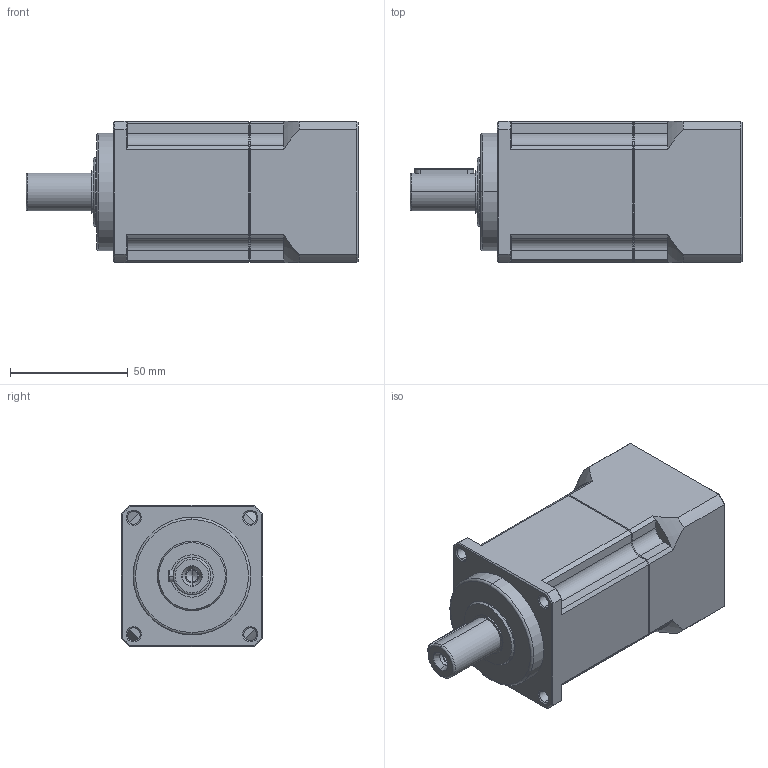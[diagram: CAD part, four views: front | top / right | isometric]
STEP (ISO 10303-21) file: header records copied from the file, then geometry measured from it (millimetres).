
FILE_DESCRIPTION (( 'STEP AP203' ), '1' );
FILE_NAME ('TB060-L2-14-50-70-M4-34.5-5.5.STEP', '2020-08-27T05:23:18', ( '' ), ( '' ), 'SwSTEP 2.0', 'SolidWorks 2017', '' );
FILE_SCHEMA (( 'CONFIG_CONTROL_DESIGN' ));
Length unit declared in the file: millimetre
Products named in the file (1): TB060-L2-14-50-70-M4-34.5-5.5
Bounding box: 141 x 60 x 60 mm (x, y, z)
Volume: 335625.3 mm3; surface area: 52834.3 mm2
Topology: 4 solids, 4 shells, 286 faces, 662 edges, 391 vertices
Faces by surface type: plane 101, cylinder 91, cone 80, torus 14
Entity records: 8348 total; most frequent: CARTESIAN_POINT 1794, DIRECTION 1414, ORIENTED_EDGE 1304, EDGE_CURVE 652, AXIS2_PLACEMENT_3D 554, VERTEX_POINT 391, EDGE_LOOP 315, LINE 306
